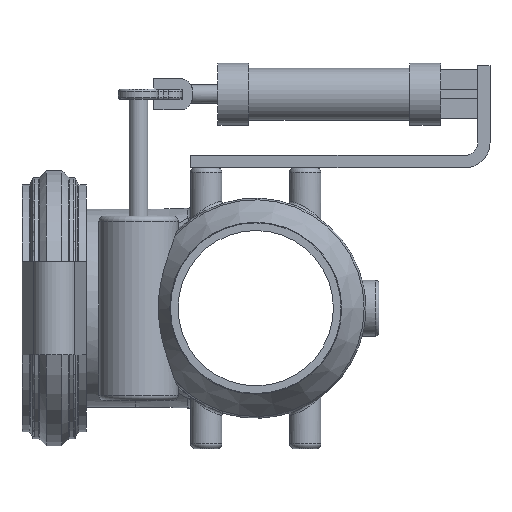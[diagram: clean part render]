
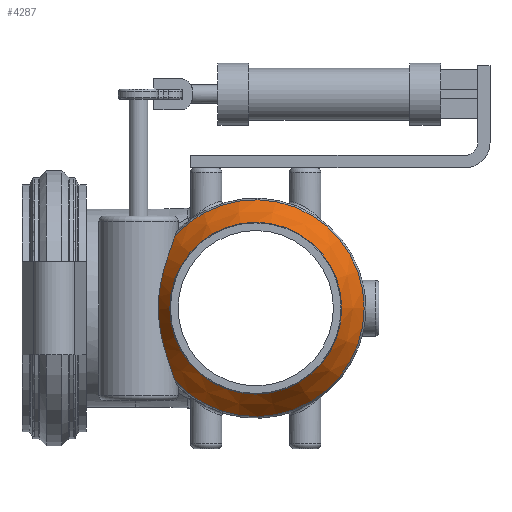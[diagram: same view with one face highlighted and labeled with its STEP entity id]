
A CAD part, left-side view. The second image highlights one B-rep face of the part: STEP entity #4287.
In plain terms, the highlighted conical face has half-angle 30 degrees and reference radius 99.799 mm.
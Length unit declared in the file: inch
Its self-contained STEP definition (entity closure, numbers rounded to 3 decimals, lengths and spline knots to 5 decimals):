
#83=CONICAL_SURFACE('',#4727,3.92911,0.524);
#460=FACE_OUTER_BOUND('',#714,.T.);
#714=EDGE_LOOP('',(#3634,#3635,#3636,#3637,#3638,#3639,#3640,#3641));
#957=LINE('',#9028,#1189);
#1189=VECTOR('',#5838,3.92911);
#1413=CIRCLE('',#4728,3.47546);
#1414=CIRCLE('',#4729,3.47546);
#1415=CIRCLE('',#4730,4.38276);
#1416=CIRCLE('',#4731,4.38276);
#1417=CIRCLE('',#4732,3.47546);
#1542=B_SPLINE_CURVE_WITH_KNOTS('',3,(#8554,#8555,#8556,#8557,#8558,#8559,
#8560,#8561,#8562,#8563,#8564,#8565,#8566,#8567,#8568,#8569,#8570,#8571,
#8572,#8573,#8574,#8575,#8576,#8577,#8578,#8579),.UNSPECIFIED.,.F.,.F.,
(4,2,2,2,2,2,2,2,2,2,2,2,4),(17.75694,19.02032,21.19601,
22.28386,23.37171,24.45955,25.5474,26.63525,
27.7231,28.81094,29.89879,32.07449,33.33786),
 .UNSPECIFIED.);
#1876=VERTEX_POINT('',#8544);
#1877=VERTEX_POINT('',#8553);
#1903=VERTEX_POINT('',#9022);
#1904=VERTEX_POINT('',#9023);
#1905=VERTEX_POINT('',#9025);
#1906=VERTEX_POINT('',#9027);
#2434=EDGE_CURVE('',#1877,#1876,#1542,.T.);
#2495=EDGE_CURVE('',#1903,#1904,#1413,.T.);
#2496=EDGE_CURVE('',#1905,#1903,#1414,.T.);
#2497=EDGE_CURVE('',#1905,#1906,#957,.T.);
#2498=EDGE_CURVE('',#1906,#1877,#1415,.T.);
#2499=EDGE_CURVE('',#1876,#1906,#1416,.T.);
#2500=EDGE_CURVE('',#1904,#1905,#1417,.T.);
#3634=ORIENTED_EDGE('',*,*,#2495,.F.);
#3635=ORIENTED_EDGE('',*,*,#2496,.F.);
#3636=ORIENTED_EDGE('',*,*,#2497,.T.);
#3637=ORIENTED_EDGE('',*,*,#2498,.T.);
#3638=ORIENTED_EDGE('',*,*,#2434,.T.);
#3639=ORIENTED_EDGE('',*,*,#2499,.T.);
#3640=ORIENTED_EDGE('',*,*,#2497,.F.);
#3641=ORIENTED_EDGE('',*,*,#2500,.F.);
#4287=ADVANCED_FACE('',(#460),#83,.T.);
#4727=AXIS2_PLACEMENT_3D('',#9021,#5832,#5833);
#4728=AXIS2_PLACEMENT_3D('',#9024,#5834,#5835);
#4729=AXIS2_PLACEMENT_3D('',#9026,#5836,#5837);
#4730=AXIS2_PLACEMENT_3D('',#9029,#5839,#5840);
#4731=AXIS2_PLACEMENT_3D('',#9030,#5841,#5842);
#4732=AXIS2_PLACEMENT_3D('',#9031,#5843,#5844);
#5832=DIRECTION('center_axis',(1.,0.,0.));
#5833=DIRECTION('ref_axis',(0.,1.,0.));
#5834=DIRECTION('center_axis',(-1.,0.,0.));
#5835=DIRECTION('ref_axis',(0.,0.,1.));
#5836=DIRECTION('center_axis',(-1.,0.,0.));
#5837=DIRECTION('ref_axis',(0.,0.,1.));
#5838=DIRECTION('',(0.866,-0.5,0.));
#5839=DIRECTION('center_axis',(-1.,0.,0.));
#5840=DIRECTION('ref_axis',(0.,0.,1.));
#5841=DIRECTION('center_axis',(-1.,0.,0.));
#5842=DIRECTION('ref_axis',(0.,0.,1.));
#5843=DIRECTION('center_axis',(-1.,0.,0.));
#5844=DIRECTION('ref_axis',(0.,0.,1.));
#8544=CARTESIAN_POINT('',(-4.56646,3.26352,-2.92541));
#8553=CARTESIAN_POINT('',(-4.56646,3.26352,2.92541));
#8554=CARTESIAN_POINT('Ctrl Pts',(-4.56646,3.26352,2.92541));
#8555=CARTESIAN_POINT('Ctrl Pts',(-4.66375,3.30415,2.79594));
#8556=CARTESIAN_POINT('Ctrl Pts',(-4.75087,3.35182,2.6595));
#8557=CARTESIAN_POINT('Ctrl Pts',(-4.96,3.48902,2.271));
#8558=CARTESIAN_POINT('Ctrl Pts',(-5.06138,3.58359,2.00624));
#8559=CARTESIAN_POINT('Ctrl Pts',(-5.17371,3.7077,1.59113));
#8560=CARTESIAN_POINT('Ctrl Pts',(-5.2047,3.74625,1.44967));
#8561=CARTESIAN_POINT('Ctrl Pts',(-5.25565,3.81422,1.1629));
#8562=CARTESIAN_POINT('Ctrl Pts',(-5.27564,3.84363,1.0176));
#8563=CARTESIAN_POINT('Ctrl Pts',(-5.30654,3.89112,0.72578));
#8564=CARTESIAN_POINT('Ctrl Pts',(-5.31746,3.90919,0.57925));
#8565=CARTESIAN_POINT('Ctrl Pts',(-5.33172,3.93314,0.28774));
#8566=CARTESIAN_POINT('Ctrl Pts',(-5.33507,3.93901,0.14276));
#8567=CARTESIAN_POINT('Ctrl Pts',(-5.33507,3.93901,-0.14276));
#8568=CARTESIAN_POINT('Ctrl Pts',(-5.33172,3.93314,-0.28774));
#8569=CARTESIAN_POINT('Ctrl Pts',(-5.31746,3.90919,-0.57925));
#8570=CARTESIAN_POINT('Ctrl Pts',(-5.30654,3.89112,-0.72578));
#8571=CARTESIAN_POINT('Ctrl Pts',(-5.27564,3.84363,-1.0176));
#8572=CARTESIAN_POINT('Ctrl Pts',(-5.25565,3.81422,-1.1629));
#8573=CARTESIAN_POINT('Ctrl Pts',(-5.2047,3.74625,-1.44967));
#8574=CARTESIAN_POINT('Ctrl Pts',(-5.17371,3.7077,-1.59113));
#8575=CARTESIAN_POINT('Ctrl Pts',(-5.06138,3.58359,-2.00624));
#8576=CARTESIAN_POINT('Ctrl Pts',(-4.96,3.48902,-2.271));
#8577=CARTESIAN_POINT('Ctrl Pts',(-4.75087,3.35182,-2.6595));
#8578=CARTESIAN_POINT('Ctrl Pts',(-4.66375,3.30415,-2.79594));
#8579=CARTESIAN_POINT('Ctrl Pts',(-4.56646,3.26352,-2.92541));
#9021=CARTESIAN_POINT('Origin',(-5.35221,0.,0.));
#9022=CARTESIAN_POINT('',(-6.13796,3.47546,0.));
#9023=CARTESIAN_POINT('',(-6.13796,0.,-3.47546));
#9024=CARTESIAN_POINT('Origin',(-6.13796,0.,0.));
#9025=CARTESIAN_POINT('',(-6.13796,-3.47546,0.));
#9026=CARTESIAN_POINT('Origin',(-6.13796,0.,0.));
#9027=CARTESIAN_POINT('',(-4.56646,-4.38276,0.));
#9028=CARTESIAN_POINT('',(-5.35221,-3.92911,0.));
#9029=CARTESIAN_POINT('Origin',(-4.56646,0.,0.));
#9030=CARTESIAN_POINT('Origin',(-4.56646,0.,0.));
#9031=CARTESIAN_POINT('Origin',(-6.13796,0.,0.));
